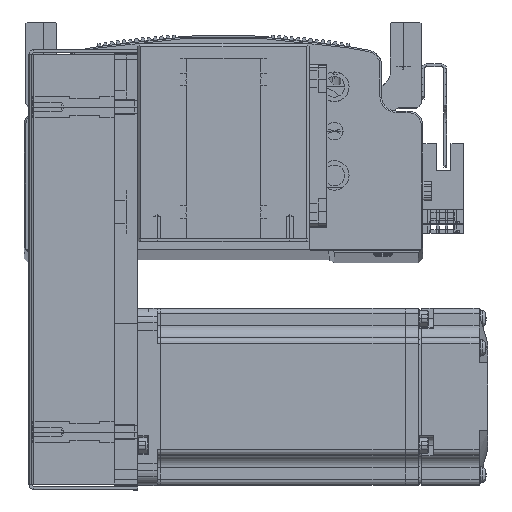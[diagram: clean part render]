
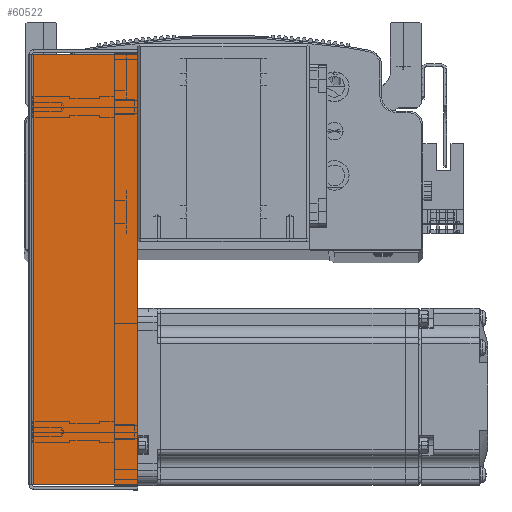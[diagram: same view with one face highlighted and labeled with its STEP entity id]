
A CAD part, top view. The second image highlights one B-rep face of the part: STEP entity #60522.
In plain terms, the highlighted planar face has unit normal (0, 0, 1) as drawn and (0, 0, -1) by its records, which use the part's own axes.
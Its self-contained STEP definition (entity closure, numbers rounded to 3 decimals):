
#3063 = EDGE_LOOP ( 'NONE', ( #33538, #33510, #33586, #33657 ) ) ;
#10995 = VECTOR ( 'NONE', #83185, 1000. ) ;
#11006 = LINE ( 'NONE', #83184, #10995 ) ;
#11155 = LINE ( 'NONE', #82622, #11177 ) ;
#11173 = LINE ( 'NONE', #81652, #11175 ) ;
#11175 = VECTOR ( 'NONE', #81686, 1000. ) ;
#11177 = VECTOR ( 'NONE', #82604, 1000. ) ;
#11206 = VECTOR ( 'NONE', #81695, 1000. ) ;
#11208 = LINE ( 'NONE', #81691, #11206 ) ;
#13280 = EDGE_CURVE ( 'NONE', #29493, #29701, #11006, .T. ) ;
#13366 = EDGE_CURVE ( 'NONE', #29723, #29585, #11155, .T. ) ;
#13376 = EDGE_CURVE ( 'NONE', #29701, #29585, #11173, .T. ) ;
#13391 = EDGE_CURVE ( 'NONE', #29493, #29723, #11208, .T. ) ;
#29493 = VERTEX_POINT ( 'NONE', #40497 ) ;
#29585 = VERTEX_POINT ( 'NONE', #40579 ) ;
#29701 = VERTEX_POINT ( 'NONE', #40696 ) ;
#29723 = VERTEX_POINT ( 'NONE', #40713 ) ;
#33510 = ORIENTED_EDGE ( 'NONE', *, *, #13391, .T. ) ;
#33538 = ORIENTED_EDGE ( 'NONE', *, *, #13280, .F. ) ;
#33586 = ORIENTED_EDGE ( 'NONE', *, *, #13366, .T. ) ;
#33657 = ORIENTED_EDGE ( 'NONE', *, *, #13376, .F. ) ;
#40497 = CARTESIAN_POINT ( 'NONE',  ( -72.793, 0.737, -34.5 ) ) ;
#40579 = CARTESIAN_POINT ( 'NONE',  ( 72.793, 36., -34.5 ) ) ;
#40696 = CARTESIAN_POINT ( 'NONE',  ( 72.793, 0.737, -34.5 ) ) ;
#40713 = CARTESIAN_POINT ( 'NONE',  ( -72.793, 36., -34.5 ) ) ;
#60522 = ADVANCED_FACE ( 'NONE', ( #64951 ), #66940, .F. ) ;
#64951 = FACE_OUTER_BOUND ( 'NONE', #3063, .T. ) ;
#66910 = DIRECTION ( 'NONE',  ( 0., 0., 1. ) ) ;
#66939 = CARTESIAN_POINT ( 'NONE',  ( 0., 0., -34.5 ) ) ;
#66940 = PLANE ( 'NONE',  #76926 ) ;
#66951 = DIRECTION ( 'NONE',  ( 0., -1., 0. ) ) ;
#76926 = AXIS2_PLACEMENT_3D ( 'NONE', #66939, #66910, #66951 ) ;
#81652 = CARTESIAN_POINT ( 'NONE',  ( 72.793, 0., -34.5 ) ) ;
#81686 = DIRECTION ( 'NONE',  ( 0., 1., 0. ) ) ;
#81691 = CARTESIAN_POINT ( 'NONE',  ( -72.793, 0., -34.5 ) ) ;
#81695 = DIRECTION ( 'NONE',  ( 0., 1., 0. ) ) ;
#82604 = DIRECTION ( 'NONE',  ( 1., 0., 0. ) ) ;
#82622 = CARTESIAN_POINT ( 'NONE',  ( 0., 36., -34.5 ) ) ;
#83184 = CARTESIAN_POINT ( 'NONE',  ( 74.5, 0.737, -34.5 ) ) ;
#83185 = DIRECTION ( 'NONE',  ( 1., 0., 0. ) ) ;
